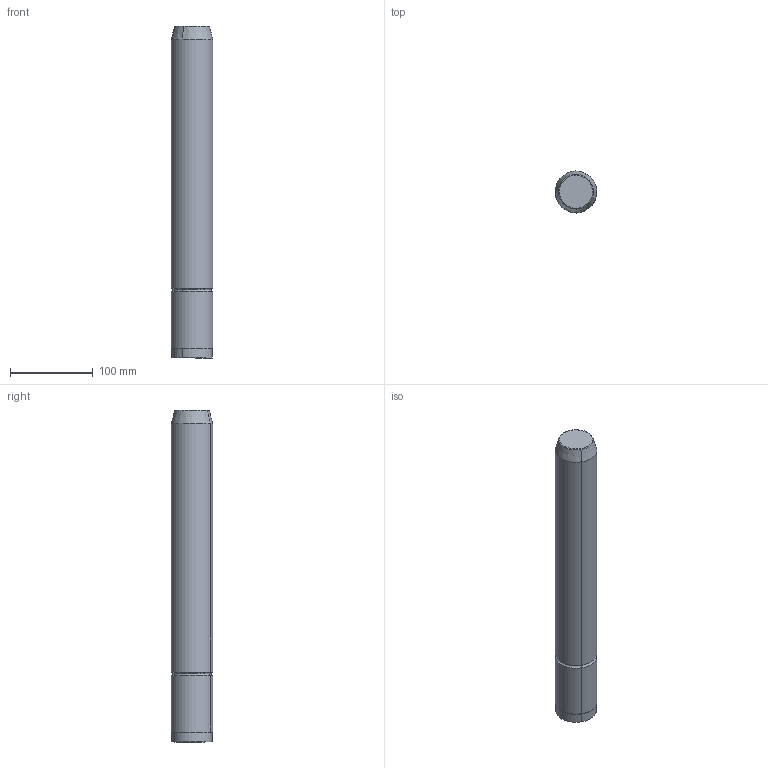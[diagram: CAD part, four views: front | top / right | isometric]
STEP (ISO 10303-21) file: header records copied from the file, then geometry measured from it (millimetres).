
FILE_DESCRIPTION(('CATIA V5 STEP Exchange'),'2;1');
FILE_NAME('C:\Users\Utente\Desktop\IO LAVORO\3D X SITO CF\X SITO\M104\M104-50x400.stp','2020-12-26T21:22:41+00:00',('none'),('none'),'CATIA Version 5 Release 20 GA (IN-10)','CATIA V5 STEP AP203','none');
FILE_SCHEMA(('CONFIG_CONTROL_DESIGN'));
Length unit declared in the file: millimetre
Products named in the file (1): M104-50x400
Bounding box: 49.99 x 49.99 x 400 mm (x, y, z)
Volume: 778321.7 mm3; surface area: 66262.5 mm2
Topology: 1 solids, 1 shells, 17 faces, 32 edges, 18 vertices
Faces by surface type: cylinder 6, torus 6, plane 3, cone 2
Entity records: 438 total; most frequent: CARTESIAN_POINT 66, ORIENTED_EDGE 64, DIRECTION 62, AXIS2_PLACEMENT_3D 40, EDGE_CURVE 32, CIRCLE 24, EDGE_LOOP 18, VERTEX_POINT 18
